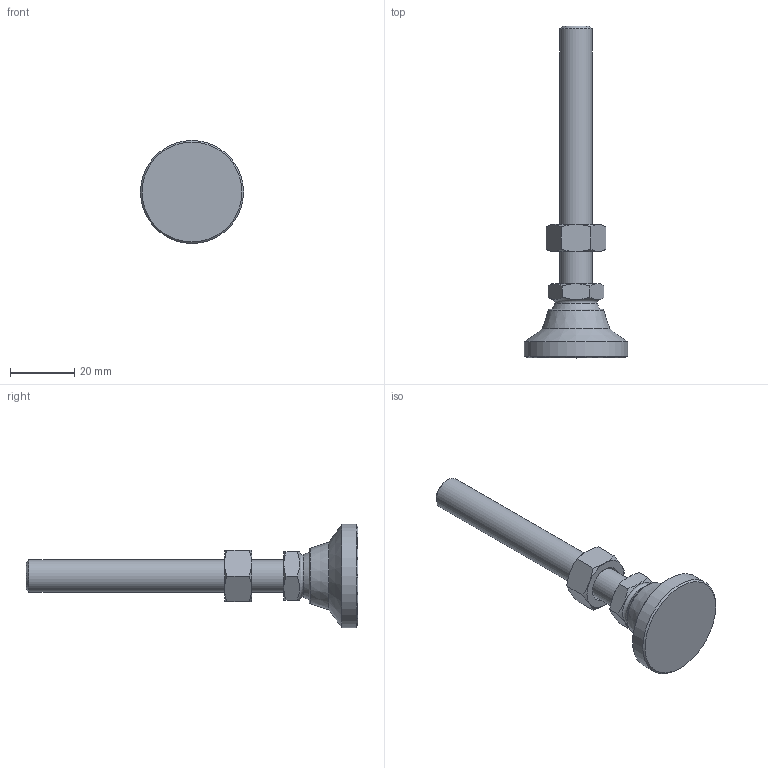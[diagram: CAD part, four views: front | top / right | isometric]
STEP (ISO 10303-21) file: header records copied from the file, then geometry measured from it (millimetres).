
FILE_DESCRIPTION( ( 'STEP AP214' ), ' ' );
FILE_NAME( 'O:/ganter_2015/teil_2/2_5/gn343_2/gn343_2_os/Levelling foot with threaded stud GN 343.2-32-M10-80-OS-(0).stp', '2015-10-26T09:07:05', ( '' ), ( '' ), ' ', 'PARTsolutions', ' ' );
FILE_SCHEMA( ( 'AUTOMOTIVE_DESIGN { 1 0 10303 214 1 1 1 1 }' ) );
Length unit declared in the file: millimetre
Products named in the file (4): Levelling foot with threaded stud GN 343.2-32-M10-80-OS-(0); _Levelling foot with threaded stud GN 343.2-32-M10-80-OS-(0)_foot; _Levelling foot with threaded stud GN 343.2-32-M10-80-OS-(0)_screw; _Stainless Steel-Levelling feet GN 343.2-32-M10-80-OS-(0)_nut
Assembly tree (3 placements, depth 2):
  Levelling foot with threaded stud GN 343.2-32-M10-80-OS-(0)
    _Levelling foot with threaded stud GN 343.2-32-M10-80-OS-(0)_foot
    _Levelling foot with threaded stud GN 343.2-32-M10-80-OS-(0)_screw
    _Stainless Steel-Levelling feet GN 343.2-32-M10-80-OS-(0)_nut
Bounding box: 32 x 103 x 32 mm (x, y, z)
Volume: 17002.9 mm3; surface area: 7336.5 mm2
Topology: 3 solids, 3 shells, 50 faces, 107 edges, 63 vertices
Faces by surface type: cone 25, plane 18, cylinder 3, torus 2, sphere 2
Full cylindrical faces by diameter (mm): 8.376 x1, 10 x1, 32 x1
Entity records: 1874 total; most frequent: CARTESIAN_POINT 468, DIRECTION 188, ORIENTED_EDGE 176, AXIS2_PLACEMENT_3D 88, EDGE_CURVE 88, EDGE_LOOP 66, VERTEX_POINT 60, FACE_OUTER_BOUND 55
